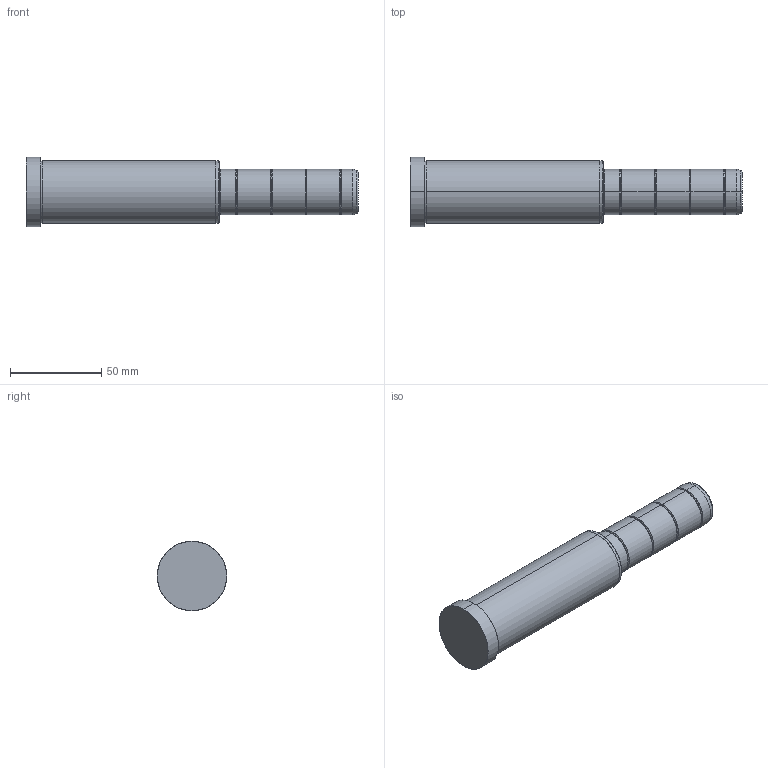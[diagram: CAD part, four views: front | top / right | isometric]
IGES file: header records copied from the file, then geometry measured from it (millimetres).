
Start section: SolidWorks IGES file using analytic representation for surfaces
Global section: file name: C:\Documents and Settings\kalite-mail\Desktop\IGS\D02\25\D02 - 25x106x76.IGS; native system: SolidWorks 2008; preprocessor: SolidWorks 2008; author: kalite-mail; date: 080617.085448; units: millimetre
Bounding box: 182 x 38 x 38 mm (x, y, z)
Surface area: 19709.1 mm2 (no closed solid volume)
Topology: 0 solids, 0 shells, 48 faces, 744 edges, 744 vertices
Faces by surface type: bspline 26, revolution 22
